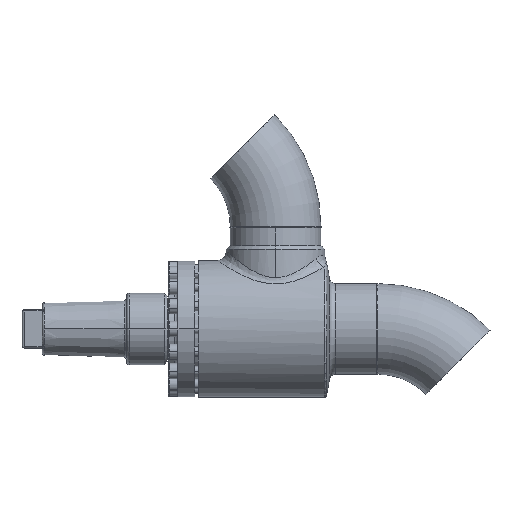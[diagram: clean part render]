
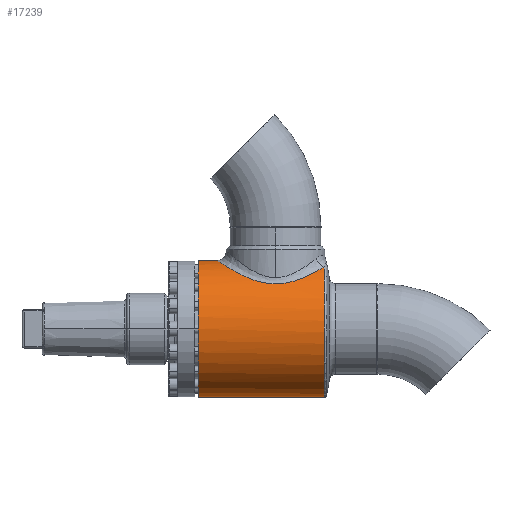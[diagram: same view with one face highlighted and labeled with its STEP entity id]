
A CAD part, left-side view. The second image highlights one B-rep face of the part: STEP entity #17239.
In plain terms, the highlighted cylindrical face has radius 57.5 mm (diameter 115 mm), a partial arc.
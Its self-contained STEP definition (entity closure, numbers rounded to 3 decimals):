
#147 = LINE ( 'NONE', #148, #149 ) ;
#148 = CARTESIAN_POINT ( 'NONE',  ( 0., -111., 57.5 ) ) ;
#149 = VECTOR ( 'NONE', #150, 1000. ) ;
#150 = DIRECTION ( 'NONE',  ( 0., 1., 0. ) ) ;
#167 = LINE ( 'NONE', #168, #169 ) ;
#168 = CARTESIAN_POINT ( 'NONE',  ( 0., -111., -57.5 ) ) ;
#169 = VECTOR ( 'NONE', #170, 1000. ) ;
#170 = DIRECTION ( 'NONE',  ( 0., 1., 0. ) ) ;
#17077 = EDGE_LOOP ( 'NONE', ( #7491, #6979, #13783, #9338, #8826 ) ) ;
#17239 = ADVANCED_FACE ( 'NONE', ( #10153 ), #10154, .T. ) ;
#1583 = VERTEX_POINT ( 'NONE', #15053 ) ;
#2657 = VERTEX_POINT ( 'NONE', #15776 ) ;
#2876 = EDGE_CURVE ( 'NONE', #14279, #2657, #167, .T. ) ;
#6979 = ORIENTED_EDGE ( 'NONE', *, *, #14058, .T. ) ;
#7491 = ORIENTED_EDGE ( 'NONE', *, *, #2876, .F. ) ;
#7731 = EDGE_CURVE ( 'NONE', #2657, #1583, #13516, .T. ) ;
#8826 = ORIENTED_EDGE ( 'NONE', *, *, #7731, .F. ) ;
#9338 = ORIENTED_EDGE ( 'NONE', *, *, #12061, .T. ) ;
#9835 = EDGE_CURVE ( 'NONE', #14037, #11839, #14436, .T. ) ;
#10153 = FACE_OUTER_BOUND ( 'NONE', #17077, .T. ) ;
#10154 = CYLINDRICAL_SURFACE ( 'NONE', #10155, 57.5 ) ;
#10155 = AXIS2_PLACEMENT_3D ( 'NONE', #10156, #10157, #10158 ) ;
#10156 = CARTESIAN_POINT ( 'NONE',  ( 0., -111., 0. ) ) ;
#10157 = DIRECTION ( 'NONE',  ( 0., 1., 0. ) ) ;
#10158 = DIRECTION ( 'NONE',  ( 0., 0., 1. ) ) ;
#11498 = CARTESIAN_POINT ( 'NONE',  ( -24.174, -105.892, 52.171 ) ) ;
#11636 = CIRCLE ( 'NONE', #11637, 57.5 ) ;
#11637 = AXIS2_PLACEMENT_3D ( 'NONE', #11638, #11639, #11640 ) ;
#11638 = CARTESIAN_POINT ( 'NONE',  ( 0., -105.892, 0. ) ) ;
#11639 = DIRECTION ( 'NONE',  ( 0., 1., 0. ) ) ;
#11640 = DIRECTION ( 'NONE',  ( 0., 0., -1. ) ) ;
#11839 = VERTEX_POINT ( 'NONE', #15734 ) ;
#12061 = EDGE_CURVE ( 'NONE', #11839, #1583, #147, .T. ) ;
#12088 = CARTESIAN_POINT ( 'NONE',  ( 0., -105.892, -57.5 ) ) ;
#13516 = CIRCLE ( 'NONE', #13517, 57.5 ) ;
#13517 = AXIS2_PLACEMENT_3D ( 'NONE', #13518, #13519, #13520 ) ;
#13518 = CARTESIAN_POINT ( 'NONE',  ( 0., 0., 0. ) ) ;
#13519 = DIRECTION ( 'NONE',  ( 0., 1., 0. ) ) ;
#13520 = DIRECTION ( 'NONE',  ( 0., 0., 1. ) ) ;
#13783 = ORIENTED_EDGE ( 'NONE', *, *, #9835, .T. ) ;
#14037 = VERTEX_POINT ( 'NONE', #11498 ) ;
#14058 = EDGE_CURVE ( 'NONE', #14279, #14037, #11636, .T. ) ;
#14279 = VERTEX_POINT ( 'NONE', #12088 ) ;
#14436 = B_SPLINE_CURVE_WITH_KNOTS ( 'NONE', 3,
 ( #14437, #14438, #14439, #14440, #14441, #14442, #14443, #14444, #14445, #14446, #14447, #14448, #14449, #14450, #14451, #14452, #14453, #14454, #14455, #14456, #14457, #14458, #14459, #14460, #14461, #14462, #14463, #14467, #14468, #14469, #14470, #14471, #14472, #14473, #14474, #14475, #14476, #14477, #14478, #14479, #14480, #14481, #14482, #14485, #14486, #14487, #14488, #14489, #14490, #14491, #14492, #14493, #14494, #14495, #14496, #14497, #14498, #14499, #14500, #14503, #14504, #14505 ),
 .UNSPECIFIED., .F., .F.,
 ( 4, 2, 2, 2, 2, 2, 2, 2, 2, 2, 2, 2, 2, 2, 2, 2, 2, 2, 2, 2, 2, 2, 2, 2, 2, 2, 2, 2, 2, 2, 4 ),
 ( 0., 0.008, 0.016, 0.017, 0.019, 0.023, 0.031, 0.035, 0.039, 0.047, 0.049, 0.05, 0.054, 0.058, 0.06, 0.062, 0.07, 0.074, 0.078, 0.085, 0.089, 0.091, 0.093, 0.101, 0.105, 0.107, 0.109, 0.116, 0.118, 0.12, 0.124 ),
 .UNSPECIFIED. ) ;
#14437 = CARTESIAN_POINT ( 'NONE',  ( -24.174, -105.892, 52.171 ) ) ;
#14438 = CARTESIAN_POINT ( 'NONE',  ( -26.132, -104.39, 51.264 ) ) ;
#14439 = CARTESIAN_POINT ( 'NONE',  ( -27.915, -102.76, 50.305 ) ) ;
#14440 = CARTESIAN_POINT ( 'NONE',  ( -31.195, -99.268, 48.34 ) ) ;
#14441 = CARTESIAN_POINT ( 'NONE',  ( -32.691, -97.405, 47.333 ) ) ;
#14442 = CARTESIAN_POINT ( 'NONE',  ( -34.397, -94.927, 46.079 ) ) ;
#14443 = CARTESIAN_POINT ( 'NONE',  ( -34.73, -94.424, 45.829 ) ) ;
#14444 = CARTESIAN_POINT ( 'NONE',  ( -35.379, -93.402, 45.329 ) ) ;
#14445 = CARTESIAN_POINT ( 'NONE',  ( -35.695, -92.884, 45.08 ) ) ;
#14446 = CARTESIAN_POINT ( 'NONE',  ( -36.613, -91.317, 44.344 ) ) ;
#14447 = CARTESIAN_POINT ( 'NONE',  ( -37.186, -90.253, 43.863 ) ) ;
#14448 = CARTESIAN_POINT ( 'NONE',  ( -38.793, -86.998, 42.466 ) ) ;
#14449 = CARTESIAN_POINT ( 'NONE',  ( -39.716, -84.747, 41.594 ) ) ;
#14450 = CARTESIAN_POINT ( 'NONE',  ( -40.882, -81.225, 40.437 ) ) ;
#14451 = CARTESIAN_POINT ( 'NONE',  ( -41.234, -80.027, 40.077 ) ) ;
#14452 = CARTESIAN_POINT ( 'NONE',  ( -41.862, -77.576, 39.421 ) ) ;
#14453 = CARTESIAN_POINT ( 'NONE',  ( -42.138, -76.319, 39.125 ) ) ;
#14454 = CARTESIAN_POINT ( 'NONE',  ( -42.831, -72.529, 38.37 ) ) ;
#14455 = CARTESIAN_POINT ( 'NONE',  ( -43.12, -69.961, 38.038 ) ) ;
#14456 = CARTESIAN_POINT ( 'NONE',  ( -43.257, -66.692, 37.883 ) ) ;
#14457 = CARTESIAN_POINT ( 'NONE',  ( -43.273, -66.034, 37.864 ) ) ;
#14458 = CARTESIAN_POINT ( 'NONE',  ( -43.282, -64.718, 37.854 ) ) ;
#14459 = CARTESIAN_POINT ( 'NONE',  ( -43.275, -64.063, 37.862 ) ) ;
#14460 = CARTESIAN_POINT ( 'NONE',  ( -43.219, -62.103, 37.926 ) ) ;
#14461 = CARTESIAN_POINT ( 'NONE',  ( -43.137, -60.806, 38.02 ) ) ;
#14462 = CARTESIAN_POINT ( 'NONE',  ( -42.884, -58.229, 38.305 ) ) ;
#14463 = CARTESIAN_POINT ( 'NONE',  ( -42.713, -56.95, 38.496 ) ) ;
#14467 = CARTESIAN_POINT ( 'NONE',  ( -42.391, -55.043, 38.85 ) ) ;
#14468 = CARTESIAN_POINT ( 'NONE',  ( -42.272, -54.408, 38.979 ) ) ;
#14469 = CARTESIAN_POINT ( 'NONE',  ( -42.014, -53.15, 39.257 ) ) ;
#14470 = CARTESIAN_POINT ( 'NONE',  ( -41.875, -52.528, 39.406 ) ) ;
#14471 = CARTESIAN_POINT ( 'NONE',  ( -41.13, -49.446, 40.191 ) ) ;
#14472 = CARTESIAN_POINT ( 'NONE',  ( -40.378, -47.077, 40.957 ) ) ;
#14473 = CARTESIAN_POINT ( 'NONE',  ( -39.022, -43.642, 42.237 ) ) ;
#14474 = CARTESIAN_POINT ( 'NONE',  ( -38.532, -42.517, 42.685 ) ) ;
#14475 = CARTESIAN_POINT ( 'NONE',  ( -37.473, -40.304, 43.618 ) ) ;
#14476 = CARTESIAN_POINT ( 'NONE',  ( -36.908, -39.223, 44.098 ) ) ;
#14477 = CARTESIAN_POINT ( 'NONE',  ( -35.115, -36.073, 45.559 ) ) ;
#14478 = CARTESIAN_POINT ( 'NONE',  ( -33.785, -34.085, 46.562 ) ) ;
#14479 = CARTESIAN_POINT ( 'NONE',  ( -31.574, -31.259, 48.064 ) ) ;
#14480 = CARTESIAN_POINT ( 'NONE',  ( -30.801, -30.343, 48.564 ) ) ;
#14481 = CARTESIAN_POINT ( 'NONE',  ( -29.582, -29.009, 49.309 ) ) ;
#14482 = CARTESIAN_POINT ( 'NONE',  ( -29.166, -28.57, 49.557 ) ) ;
#14485 = CARTESIAN_POINT ( 'NONE',  ( -28.313, -27.708, 50.049 ) ) ;
#14486 = CARTESIAN_POINT ( 'NONE',  ( -27.875, -27.282, 50.294 ) ) ;
#14487 = CARTESIAN_POINT ( 'NONE',  ( -25.646, -25.201, 51.504 ) ) ;
#14488 = CARTESIAN_POINT ( 'NONE',  ( -23.737, -23.688, 52.419 ) ) ;
#14489 = CARTESIAN_POINT ( 'NONE',  ( -20.66, -21.659, 53.671 ) ) ;
#14490 = CARTESIAN_POINT ( 'NONE',  ( -19.599, -21.023, 54.069 ) ) ;
#14491 = CARTESIAN_POINT ( 'NONE',  ( -17.948, -20.134, 54.63 ) ) ;
#14492 = CARTESIAN_POINT ( 'NONE',  ( -17.388, -19.848, 54.811 ) ) ;
#14493 = CARTESIAN_POINT ( 'NONE',  ( -16.247, -19.3, 55.16 ) ) ;
#14494 = CARTESIAN_POINT ( 'NONE',  ( -15.665, -19.037, 55.328 ) ) ;
#14495 = CARTESIAN_POINT ( 'NONE',  ( -12.734, -17.796, 56.125 ) ) ;
#14496 = CARTESIAN_POINT ( 'NONE',  ( -10.302, -17.028, 56.627 ) ) ;
#14497 = CARTESIAN_POINT ( 'NONE',  ( -7.142, -16.371, 57.058 ) ) ;
#14498 = CARTESIAN_POINT ( 'NONE',  ( -6.505, -16.254, 57.135 ) ) ;
#14499 = CARTESIAN_POINT ( 'NONE',  ( -5.216, -16.054, 57.267 ) ) ;
#14500 = CARTESIAN_POINT ( 'NONE',  ( -4.563, -15.969, 57.322 ) ) ;
#14503 = CARTESIAN_POINT ( 'NONE',  ( -2.602, -15.766, 57.456 ) ) ;
#14504 = CARTESIAN_POINT ( 'NONE',  ( -1.298, -15.7, 57.5 ) ) ;
#14505 = CARTESIAN_POINT ( 'NONE',  ( 0., -15.7, 57.5 ) ) ;
#15053 = CARTESIAN_POINT ( 'NONE',  ( 0., 0., 57.5 ) ) ;
#15734 = CARTESIAN_POINT ( 'NONE',  ( 0., -15.7, 57.5 ) ) ;
#15776 = CARTESIAN_POINT ( 'NONE',  ( 0., 0., -57.5 ) ) ;
